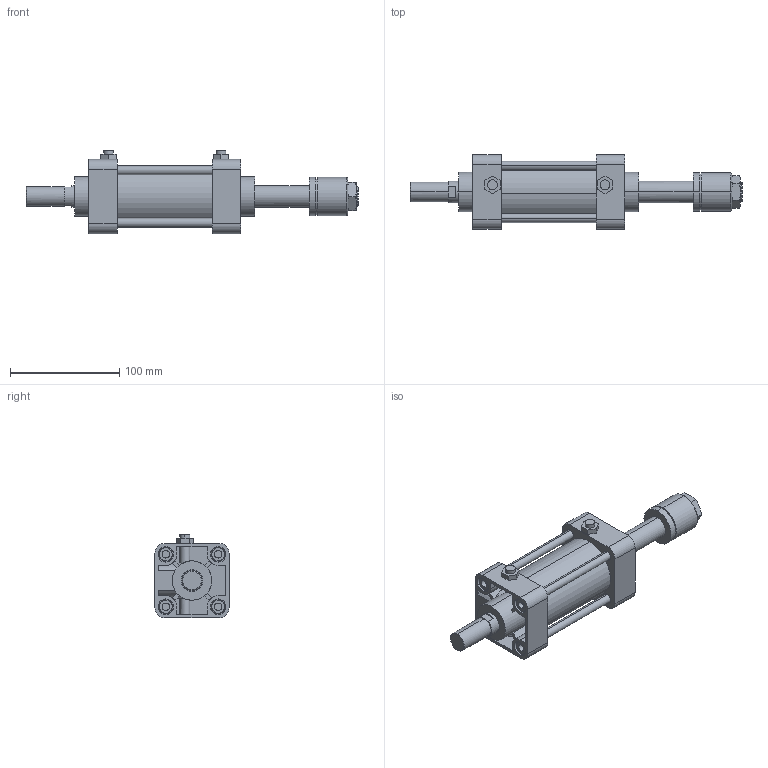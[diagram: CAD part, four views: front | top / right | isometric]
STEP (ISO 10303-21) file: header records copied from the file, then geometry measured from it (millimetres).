
FILE_DESCRIPTION (( 'STEP AP203' ), '1' );
FILE_NAME ('KGA7-50#-50-N.STEP', '2016-04-14T07:50:26', ( '' ), ( '' ), 'SwSTEP 2.0', 'SolidWorks 2014', '' );
FILE_SCHEMA (( 'CONFIG_CONTROL_DESIGN' ));
Length unit declared in the file: millimetre
Products named in the file (8): K#7-50-50-After; KGA7-50(63)-Turn; KGLH2-50-50; KGA7-50#-50-N
Assembly tree (17 placements, depth 2):
  KGA7-50#-50-N
    K#7-50-50-After
    KGLH2-50-50
    (unnamed)
    (unnamed)  x4
    (unnamed)  x8
    KGA7-50(63)-Turn
    (unnamed)
Bounding box: 304 x 68 x 76.3 mm (x, y, z)
Volume: 497978.4 mm3; surface area: 115254.1 mm2
Topology: 17 solids, 21 shells, 379 faces, 870 edges, 552 vertices
Faces by surface type: plane 163, cylinder 142, torus 46, cone 28
Entity records: 9812 total; most frequent: CARTESIAN_POINT 1895, DIRECTION 1494, ORIENTED_EDGE 1360, EDGE_CURVE 680, AXIS2_PLACEMENT_3D 571, VERTEX_POINT 442, VECTOR 352, LINE 352
